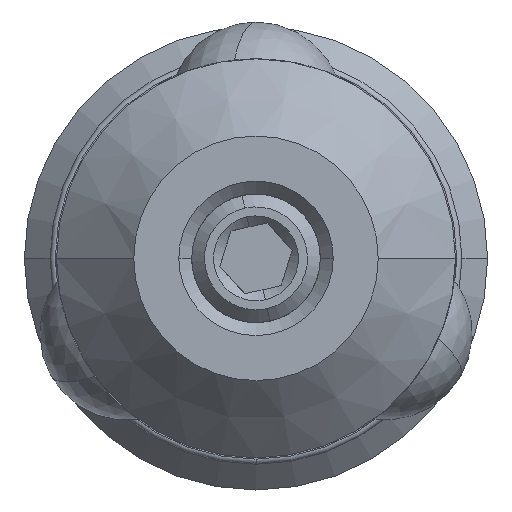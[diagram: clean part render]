
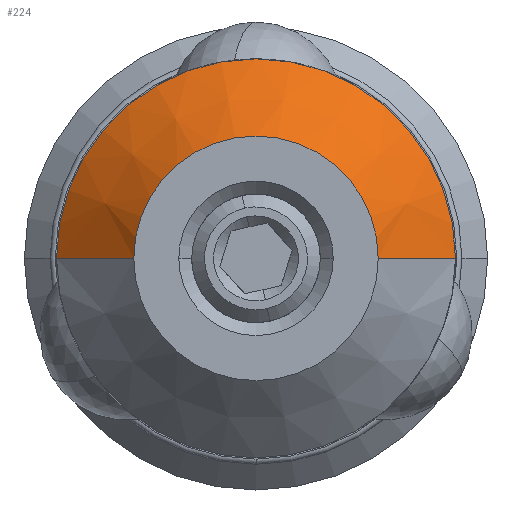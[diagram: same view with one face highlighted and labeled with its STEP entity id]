
A CAD part, front view. The second image highlights one B-rep face of the part: STEP entity #224.
In plain terms, the highlighted conical face has half-angle 45 degrees and reference radius 7.75 mm.
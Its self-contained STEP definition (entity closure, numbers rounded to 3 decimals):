
#45 = CARTESIAN_POINT ( 'NONE',  ( 4.75, 0., 0. ) ) ;
#147 = CARTESIAN_POINT ( 'NONE',  ( -7.75, 3., 0. ) ) ;
#202 = CARTESIAN_POINT ( 'NONE',  ( 0., 3., 0. ) ) ;
#217 = DIRECTION ( 'NONE',  ( 1., 0., 0. ) ) ;
#224 = ADVANCED_FACE ( 'NONE', ( #1306 ), #1904, .T. ) ;
#241 = DIRECTION ( 'NONE',  ( 0., -1., 0. ) ) ;
#296 = DIRECTION ( 'NONE',  ( 0.707, 0.707, 0. ) ) ;
#325 = CARTESIAN_POINT ( 'NONE',  ( 7.75, 3., 0. ) ) ;
#508 = VERTEX_POINT ( 'NONE', #2766 ) ;
#513 = LINE ( 'NONE', #325, #3519 ) ;
#555 = DIRECTION ( 'NONE',  ( -0.707, 0.707, 0. ) ) ;
#593 = CARTESIAN_POINT ( 'NONE',  ( 0., 3., 0. ) ) ;
#630 = CARTESIAN_POINT ( 'NONE',  ( -7.75, 3., 0. ) ) ;
#651 = DIRECTION ( 'NONE',  ( -1., 0., 0. ) ) ;
#658 = DIRECTION ( 'NONE',  ( 0., 1., 0. ) ) ;
#1018 = LINE ( 'NONE', #630, #2476 ) ;
#1044 = VERTEX_POINT ( 'NONE', #1466 ) ;
#1306 = FACE_OUTER_BOUND ( 'NONE', #1470, .T. ) ;
#1363 = AXIS2_PLACEMENT_3D ( 'NONE', #3440, #1702, #3731 ) ;
#1466 = CARTESIAN_POINT ( 'NONE',  ( 7.75, 3., 0. ) ) ;
#1470 = EDGE_LOOP ( 'NONE', ( #2771, #3349, #2798, #1685 ) ) ;
#1685 = ORIENTED_EDGE ( 'NONE', *, *, #1793, .F. ) ;
#1702 = DIRECTION ( 'NONE',  ( 0., -1., 0. ) ) ;
#1793 = EDGE_CURVE ( 'NONE', #508, #2417, #1018, .T. ) ;
#1904 = CONICAL_SURFACE ( 'NONE', #2228, 7.75, 0.785 ) ;
#1984 = EDGE_CURVE ( 'NONE', #1044, #2417, #2389, .T. ) ;
#2228 = AXIS2_PLACEMENT_3D ( 'NONE', #593, #658, #651 ) ;
#2372 = EDGE_CURVE ( 'NONE', #2768, #1044, #513, .T. ) ;
#2384 = CIRCLE ( 'NONE', #1363, 4.75 ) ;
#2389 = CIRCLE ( 'NONE', #2864, 7.75 ) ;
#2417 = VERTEX_POINT ( 'NONE', #147 ) ;
#2476 = VECTOR ( 'NONE', #555, 1000. ) ;
#2565 = EDGE_CURVE ( 'NONE', #2768, #508, #2384, .T. ) ;
#2766 = CARTESIAN_POINT ( 'NONE',  ( -4.75, 0., 0. ) ) ;
#2768 = VERTEX_POINT ( 'NONE', #45 ) ;
#2771 = ORIENTED_EDGE ( 'NONE', *, *, #2565, .F. ) ;
#2798 = ORIENTED_EDGE ( 'NONE', *, *, #1984, .T. ) ;
#2864 = AXIS2_PLACEMENT_3D ( 'NONE', #202, #241, #217 ) ;
#3349 = ORIENTED_EDGE ( 'NONE', *, *, #2372, .T. ) ;
#3440 = CARTESIAN_POINT ( 'NONE',  ( 0., 0., 0. ) ) ;
#3519 = VECTOR ( 'NONE', #296, 1000. ) ;
#3731 = DIRECTION ( 'NONE',  ( 1., 0., 0. ) ) ;
